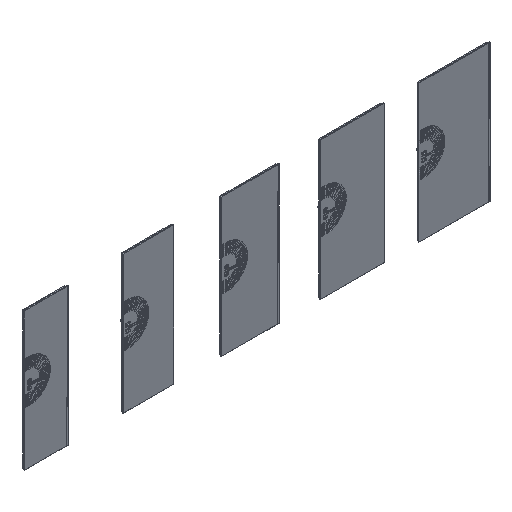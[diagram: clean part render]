
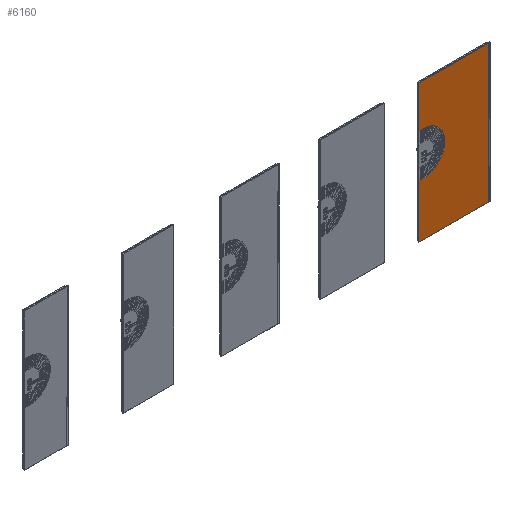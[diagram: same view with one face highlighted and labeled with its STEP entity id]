
A CAD part, isometric view. The second image highlights one B-rep face of the part: STEP entity #6160.
In plain terms, the highlighted planar face has unit normal (0, -1, 0).
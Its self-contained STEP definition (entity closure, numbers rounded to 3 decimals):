
#3872=FACE_OUTER_BOUND('',#11708,.T.);
#6160=ADVANCED_FACE('',(#3872),#7260,.F.);
#7260=PLANE('',#42147);
#9364=CIRCLE('',#42146,313.);
#11708=EDGE_LOOP('',(#21492,#21493,#21494,#21495,#21496,#21497,#21498,#21499));
#21492=ORIENTED_EDGE('',*,*,#31594,.T.);
#21493=ORIENTED_EDGE('',*,*,#31595,.T.);
#21494=ORIENTED_EDGE('',*,*,#31335,.T.);
#21495=ORIENTED_EDGE('',*,*,#31596,.T.);
#21496=ORIENTED_EDGE('',*,*,#31597,.F.);
#21497=ORIENTED_EDGE('',*,*,#31592,.F.);
#21498=ORIENTED_EDGE('',*,*,#31330,.T.);
#21499=ORIENTED_EDGE('',*,*,#31598,.F.);
#26161=VERTEX_POINT('',#69537);
#26162=VERTEX_POINT('',#69539);
#26166=VERTEX_POINT('',#69547);
#26167=VERTEX_POINT('',#69549);
#26395=VERTEX_POINT('',#70045);
#26396=VERTEX_POINT('',#70049);
#26397=VERTEX_POINT('',#70050);
#26398=VERTEX_POINT('',#70053);
#31330=EDGE_CURVE('',#26162,#26161,#34858,.T.);
#31335=EDGE_CURVE('',#26167,#26166,#34863,.T.);
#31592=EDGE_CURVE('',#26162,#26395,#34999,.T.);
#31594=EDGE_CURVE('',#26396,#26397,#9364,.T.);
#31595=EDGE_CURVE('',#26397,#26167,#35001,.T.);
#31596=EDGE_CURVE('',#26166,#26398,#35002,.T.);
#31597=EDGE_CURVE('',#26395,#26398,#35003,.T.);
#31598=EDGE_CURVE('',#26396,#26161,#35004,.T.);
#34858=LINE('',#69538,#37888);
#34863=LINE('',#69548,#37893);
#34999=LINE('',#70044,#38029);
#35001=LINE('',#70051,#38031);
#35002=LINE('',#70052,#38032);
#35003=LINE('',#70054,#38033);
#35004=LINE('',#70055,#38034);
#37888=VECTOR('',#52463,1.);
#37893=VECTOR('',#52468,1.);
#38029=VECTOR('',#52868,1.);
#38031=VECTOR('',#52874,1.);
#38032=VECTOR('',#52875,1.);
#38033=VECTOR('',#52876,1.);
#38034=VECTOR('',#52877,1.);
#42146=AXIS2_PLACEMENT_3D('',#70048,#52872,#52873);
#42147=AXIS2_PLACEMENT_3D('',#70056,#52878,#52879);
#52463=DIRECTION('',(0.,0.,-1.));
#52468=DIRECTION('',(0.,0.,-1.));
#52868=DIRECTION('',(1.,0.,0.));
#52872=DIRECTION('',(0.,1.,0.));
#52873=DIRECTION('',(0.,0.,1.));
#52874=DIRECTION('',(-1.,0.,0.));
#52875=DIRECTION('',(1.,0.,0.));
#52876=DIRECTION('',(0.,0.,-1.));
#52877=DIRECTION('',(-1.,0.,0.));
#52878=DIRECTION('',(0.,1.,0.));
#52879=DIRECTION('',(-1.,0.,0.));
#69537=CARTESIAN_POINT('',(5478.,-39.3,1417.));
#69538=CARTESIAN_POINT('',(5478.,-39.3,2030.));
#69539=CARTESIAN_POINT('',(5478.,-39.3,2030.));
#69547=CARTESIAN_POINT('',(5478.,-39.3,2.));
#69548=CARTESIAN_POINT('',(5478.,-39.3,2030.));
#69549=CARTESIAN_POINT('',(5478.,-39.3,791.));
#70044=CARTESIAN_POINT('',(5678.,-39.3,2030.));
#70045=CARTESIAN_POINT('',(6522.,-39.3,2030.));
#70048=CARTESIAN_POINT('',(5546.,-39.3,1104.));
#70049=CARTESIAN_POINT('',(5546.,-39.3,1417.));
#70050=CARTESIAN_POINT('',(5546.,-39.3,791.));
#70051=CARTESIAN_POINT('',(5546.,-39.3,791.));
#70052=CARTESIAN_POINT('',(5678.,-39.3,2.));
#70053=CARTESIAN_POINT('',(6522.,-39.3,2.));
#70054=CARTESIAN_POINT('',(6522.,-39.3,2030.));
#70055=CARTESIAN_POINT('',(5546.,-39.3,1417.));
#70056=CARTESIAN_POINT('',(5678.,-39.3,2030.));
